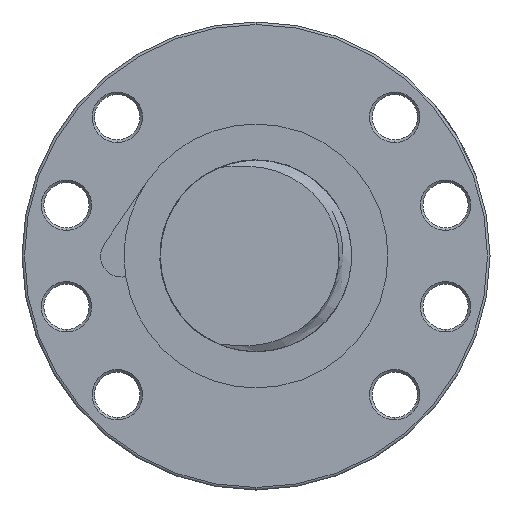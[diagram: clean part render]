
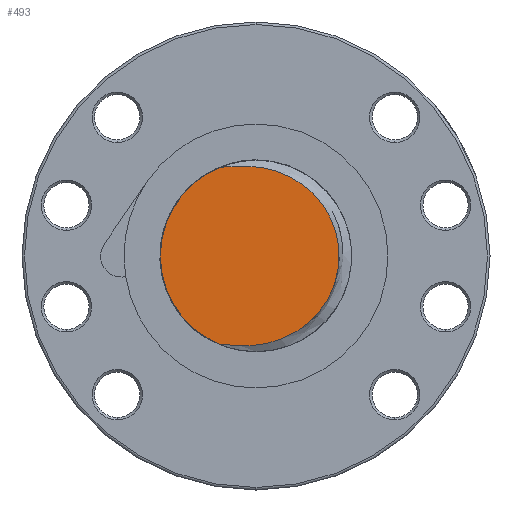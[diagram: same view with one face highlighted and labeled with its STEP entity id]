
A CAD part, left-side view. The second image highlights one B-rep face of the part: STEP entity #493.
In plain terms, the highlighted planar face has unit normal (-1, 0, 0).
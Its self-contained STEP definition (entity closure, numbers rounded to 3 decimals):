
#493 = ADVANCED_FACE ( 'NONE', ( #30661 ), #30652, .F. ) ;
#494 = EDGE_LOOP ( 'NONE', ( #495, #496 ) ) ;
#495 = ORIENTED_EDGE ( 'NONE', *, *, #1748, .F. ) ;
#496 = ORIENTED_EDGE ( 'NONE', *, *, #497, .T. ) ;
#497 = EDGE_CURVE ( 'NONE', #1746, #1740, #30646, .T. ) ;
#1740 = VERTEX_POINT ( 'NONE', #27444 ) ;
#1746 = VERTEX_POINT ( 'NONE', #27253 ) ;
#1748 = EDGE_CURVE ( 'NONE', #1746, #1740, #27408, .T. ) ;
#27251 = CARTESIAN_POINT ( 'NONE',  ( -205., 0., 0. ) ) ;
#27253 = CARTESIAN_POINT ( 'NONE',  ( -205., 7.077, -17.633 ) ) ;
#27404 = DIRECTION ( 'NONE',  ( 0., 1., 0. ) ) ;
#27405 = DIRECTION ( 'NONE',  ( 1., 0., 0. ) ) ;
#27407 = AXIS2_PLACEMENT_3D ( 'NONE', #27251, #27405, #27404 ) ;
#27408 = CIRCLE ( 'NONE', #27407, 19. ) ;
#27444 = CARTESIAN_POINT ( 'NONE',  ( -205., 7.076, 17.633 ) ) ;
#30630 = CARTESIAN_POINT ( 'NONE',  ( -205., 0.101, -17.79 ) ) ;
#30631 = CARTESIAN_POINT ( 'NONE',  ( -205., 1.488, -17.887 ) ) ;
#30632 = CARTESIAN_POINT ( 'NONE',  ( -205., 3.579, -17.866 ) ) ;
#30634 = CARTESIAN_POINT ( 'NONE',  ( -205., 4.278, -17.831 ) ) ;
#30636 = CARTESIAN_POINT ( 'NONE',  ( -205., 5.327, -17.754 ) ) ;
#30638 = CARTESIAN_POINT ( 'NONE',  ( -205., 5.677, -17.725 ) ) ;
#30640 = CARTESIAN_POINT ( 'NONE',  ( -205., 6.376, -17.67 ) ) ;
#30641 = CARTESIAN_POINT ( 'NONE',  ( -205., 6.726, -17.642 ) ) ;
#30643 = CARTESIAN_POINT ( 'NONE',  ( -205., 7.077, -17.633 ) ) ;
#30646 = B_SPLINE_CURVE_WITH_KNOTS ( 'NONE', 3,
 ( #30643, #30641, #30640, #30638, #30636, #30634, #30632, #30631, #30630, #30789, #30788, #30787, #30786, #30785, #30784, #30783, #30781, #30780, #30778, #30777, #30776, #30775, #30774, #30773, #30772, #30771, #30770, #30769, #30768, #30767, #30766, #30765, #30764, #30763, #30762, #30761, #30760, #30759, #30758, #30757, #30756, #30755, #30754, #30753, #30752, #30751, #30750, #30749, #30748, #30747, #30746, #30745, #30744, #30743, #30742, #30741, #30740, #30739, #30738, #30737, #30897, #30896, #30895, #30894, #30893, #30892, #30891, #30890 ),
 .UNSPECIFIED., .F., .F.,
 ( 4, 2, 2, 2, 2, 2, 2, 2, 2, 2, 2, 2, 2, 2, 2, 2, 2, 2, 2, 2, 2, 2, 2, 2, 2, 2, 2, 2, 2, 2, 2, 2, 2, 4 ),
 ( 0.003, 0.004, 0.005, 0.007, 0.011, 0.014, 0.016, 0.018, 0.019, 0.02, 0.024, 0.025, 0.026, 0.028, 0.03, 0.032, 0.037, 0.038, 0.039, 0.041, 0.043, 0.044, 0.045, 0.047, 0.049, 0.054, 0.056, 0.058, 0.062, 0.064, 0.066, 0.068, 0.069, 0.07 ),
 .UNSPECIFIED. ) ;
#30648 = DIRECTION ( 'NONE',  ( 0., 0., -1. ) ) ;
#30649 = DIRECTION ( 'NONE',  ( 1., 0., 0. ) ) ;
#30650 = CARTESIAN_POINT ( 'NONE',  ( -205., 0., 0. ) ) ;
#30651 = AXIS2_PLACEMENT_3D ( 'NONE', #30650, #30649, #30648 ) ;
#30652 = PLANE ( 'NONE',  #30651 ) ;
#30661 = FACE_OUTER_BOUND ( 'NONE', #494, .T. ) ;
#30737 = CARTESIAN_POINT ( 'NONE',  ( -205., 1.439, 17.857 ) ) ;
#30738 = CARTESIAN_POINT ( 'NONE',  ( -205., 0.036, 17.747 ) ) ;
#30739 = CARTESIAN_POINT ( 'NONE',  ( -205., -0.665, 17.658 ) ) ;
#30740 = CARTESIAN_POINT ( 'NONE',  ( -205., -2.748, 17.282 ) ) ;
#30741 = CARTESIAN_POINT ( 'NONE',  ( -205., -4.09, 16.894 ) ) ;
#30742 = CARTESIAN_POINT ( 'NONE',  ( -205., -6.028, 16.095 ) ) ;
#30743 = CARTESIAN_POINT ( 'NONE',  ( -205., -6.662, 15.791 ) ) ;
#30744 = CARTESIAN_POINT ( 'NONE',  ( -205., -7.9, 15.107 ) ) ;
#30745 = CARTESIAN_POINT ( 'NONE',  ( -205., -8.494, 14.734 ) ) ;
#30746 = CARTESIAN_POINT ( 'NONE',  ( -205., -10.2, 13.521 ) ) ;
#30747 = CARTESIAN_POINT ( 'NONE',  ( -205., -11.238, 12.589 ) ) ;
#30748 = CARTESIAN_POINT ( 'NONE',  ( -205., -12.636, 10.992 ) ) ;
#30749 = CARTESIAN_POINT ( 'NONE',  ( -205., -13.068, 10.436 ) ) ;
#30750 = CARTESIAN_POINT ( 'NONE',  ( -205., -13.859, 9.282 ) ) ;
#30751 = CARTESIAN_POINT ( 'NONE',  ( -205., -14.218, 8.684 ) ) ;
#30752 = CARTESIAN_POINT ( 'NONE',  ( -205., -14.704, 7.753 ) ) ;
#30753 = CARTESIAN_POINT ( 'NONE',  ( -205., -14.857, 7.437 ) ) ;
#30754 = CARTESIAN_POINT ( 'NONE',  ( -205., -15.145, 6.795 ) ) ;
#30755 = CARTESIAN_POINT ( 'NONE',  ( -205., -15.28, 6.467 ) ) ;
#30756 = CARTESIAN_POINT ( 'NONE',  ( -205., -15.654, 5.476 ) ) ;
#30757 = CARTESIAN_POINT ( 'NONE',  ( -205., -15.861, 4.806 ) ) ;
#30758 = CARTESIAN_POINT ( 'NONE',  ( -205., -16.193, 3.449 ) ) ;
#30759 = CARTESIAN_POINT ( 'NONE',  ( -205., -16.318, 2.762 ) ) ;
#30760 = CARTESIAN_POINT ( 'NONE',  ( -205., -16.443, 1.718 ) ) ;
#30761 = CARTESIAN_POINT ( 'NONE',  ( -205., -16.474, 1.367 ) ) ;
#30762 = CARTESIAN_POINT ( 'NONE',  ( -205., -16.515, 0.662 ) ) ;
#30763 = CARTESIAN_POINT ( 'NONE',  ( -205., -16.525, 0.308 ) ) ;
#30764 = CARTESIAN_POINT ( 'NONE',  ( -205., -16.521, -1.451 ) ) ;
#30765 = CARTESIAN_POINT ( 'NONE',  ( -205., -16.349, -2.836 ) ) ;
#30766 = CARTESIAN_POINT ( 'NONE',  ( -205., -15.839, -4.882 ) ) ;
#30767 = CARTESIAN_POINT ( 'NONE',  ( -205., -15.625, -5.561 ) ) ;
#30768 = CARTESIAN_POINT ( 'NONE',  ( -205., -15.124, -6.872 ) ) ;
#30769 = CARTESIAN_POINT ( 'NONE',  ( -205., -14.836, -7.508 ) ) ;
#30770 = CARTESIAN_POINT ( 'NONE',  ( -205., -14.184, -8.742 ) ) ;
#30771 = CARTESIAN_POINT ( 'NONE',  ( -205., -13.822, -9.34 ) ) ;
#30772 = CARTESIAN_POINT ( 'NONE',  ( -205., -13.222, -10.208 ) ) ;
#30773 = CARTESIAN_POINT ( 'NONE',  ( -205., -13.011, -10.494 ) ) ;
#30774 = CARTESIAN_POINT ( 'NONE',  ( -205., -12.576, -11.05 ) ) ;
#30775 = CARTESIAN_POINT ( 'NONE',  ( -205., -12.352, -11.32 ) ) ;
#30776 = CARTESIAN_POINT ( 'NONE',  ( -205., -11.193, -12.632 ) ) ;
#30777 = CARTESIAN_POINT ( 'NONE',  ( -205., -10.153, -13.561 ) ) ;
#30778 = CARTESIAN_POINT ( 'NONE',  ( -205., -8.716, -14.574 ) ) ;
#30780 = CARTESIAN_POINT ( 'NONE',  ( -205., -8.421, -14.77 ) ) ;
#30781 = CARTESIAN_POINT ( 'NONE',  ( -205., -7.822, -15.143 ) ) ;
#30783 = CARTESIAN_POINT ( 'NONE',  ( -205., -7.518, -15.32 ) ) ;
#30784 = CARTESIAN_POINT ( 'NONE',  ( -205., -6.595, -15.824 ) ) ;
#30785 = CARTESIAN_POINT ( 'NONE',  ( -205., -5.964, -16.123 ) ) ;
#30786 = CARTESIAN_POINT ( 'NONE',  ( -205., -4.673, -16.65 ) ) ;
#30787 = CARTESIAN_POINT ( 'NONE',  ( -205., -4.012, -16.879 ) ) ;
#30788 = CARTESIAN_POINT ( 'NONE',  ( -205., -2.66, -17.267 ) ) ;
#30789 = CARTESIAN_POINT ( 'NONE',  ( -205., -1.968, -17.426 ) ) ;
#30890 = CARTESIAN_POINT ( 'NONE',  ( -205., 7.076, 17.633 ) ) ;
#30891 = CARTESIAN_POINT ( 'NONE',  ( -205., 6.723, 17.643 ) ) ;
#30892 = CARTESIAN_POINT ( 'NONE',  ( -205., 6.372, 17.671 ) ) ;
#30893 = CARTESIAN_POINT ( 'NONE',  ( -205., 5.668, 17.726 ) ) ;
#30894 = CARTESIAN_POINT ( 'NONE',  ( -205., 5.316, 17.755 ) ) ;
#30895 = CARTESIAN_POINT ( 'NONE',  ( -205., 4.26, 17.831 ) ) ;
#30896 = CARTESIAN_POINT ( 'NONE',  ( -205., 3.554, 17.867 ) ) ;
#30897 = CARTESIAN_POINT ( 'NONE',  ( -205., 2.143, 17.879 ) ) ;
